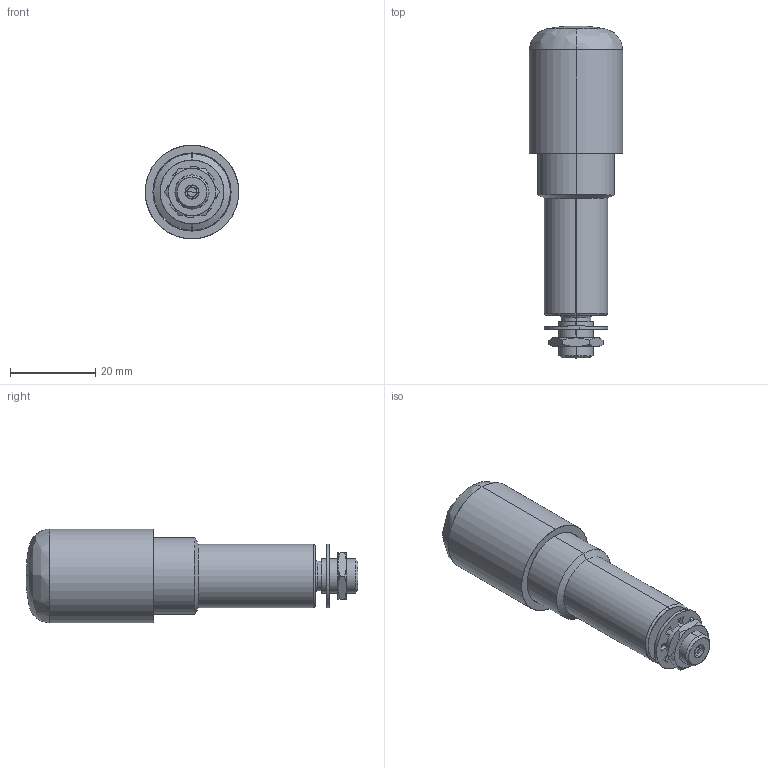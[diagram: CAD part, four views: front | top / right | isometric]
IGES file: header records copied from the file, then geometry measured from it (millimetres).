
Start section: SolidWorks IGES file using analytic representation for surfaces
Global section: file name: Y:\CAD\HP用CADデータ\210305_HP更新用\3D\FA-1010D□-C-060.IGS; native system: SolidWorks 2021; preprocessor: SolidWorks 2021; author: flgijutsu; date: 210310.143531; units: millimetre
Bounding box: 22 x 78 x 22 mm (x, y, z)
Surface area: 6825.2 mm2 (no closed solid volume)
Topology: 0 solids, 0 shells, 86 faces, 994 edges, 993 vertices
Faces by surface type: bspline 48, revolution 38
